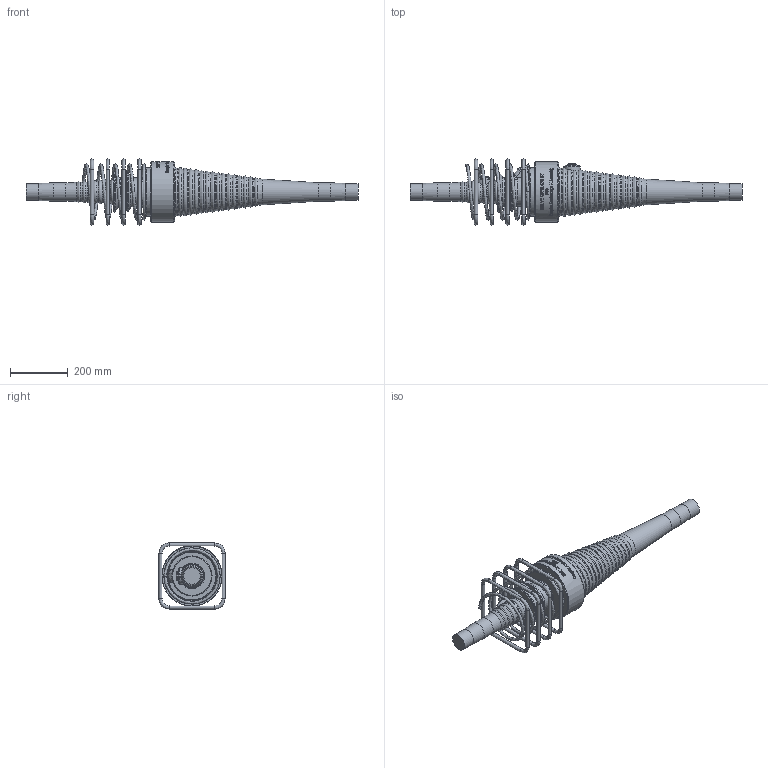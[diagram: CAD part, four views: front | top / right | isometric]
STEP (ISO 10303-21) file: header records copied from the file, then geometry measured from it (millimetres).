
FILE_DESCRIPTION(/* description */ (''),/* implementation_level */ '2;1');
FILE_NAME(/* name */ 'Z:\04 Publications\05 Give-out\BBR\6_3D_Models\BBR VT CONA CMI\BBR VT CONA CMI BT\00506\BBR VT CONA CMI BT 506_Couler K Assembly_CS-34,28.stp',/* time_stamp */ '2017-05-04T16:26:45+02:00',/* author */ ('IP'),/* organization */ (''),/* preprocessor_version */ 'ST-DEVELOPER v16.1',/* originating_system */ 'Autodesk Inventor 2016',/* authorisation */ '');
FILE_SCHEMA (('AUTOMOTIVE_DESIGN { 1 0 10303 214 3 1 1 }'));
Length unit declared in the file: millimetre
Products named in the file (1): BBR VT CONA CMI BT 506_Couler K Assembly_CS-34,28
Bounding box: 1153 x 230 x 230 mm (x, y, z)
Volume: 11645506.6 mm3; surface area: 670201.2 mm2
Topology: 6 solids, 6 shells, 939 faces, 2388 edges, 1517 vertices
Faces by surface type: bspline 423, plane 259, torus 106, cylinder 102, cone 25, sphere 24
Full cylindrical faces by diameter (mm): 12 x16, 34 x2, 57 x2, 59 x2, 64 x2, 133.801 x1, 139.387 x1, 170 x1, 203 x1, 207 x1, 210 x1
Entity records: 40351 total; most frequent: CARTESIAN_POINT 20473, ORIENTED_EDGE 4476, DIRECTION 2963, EDGE_CURVE 2238, VERTEX_POINT 1506, EDGE_LOOP 1142, AXIS2_PLACEMENT_3D 1050, FACE_OUTER_BOUND 939
